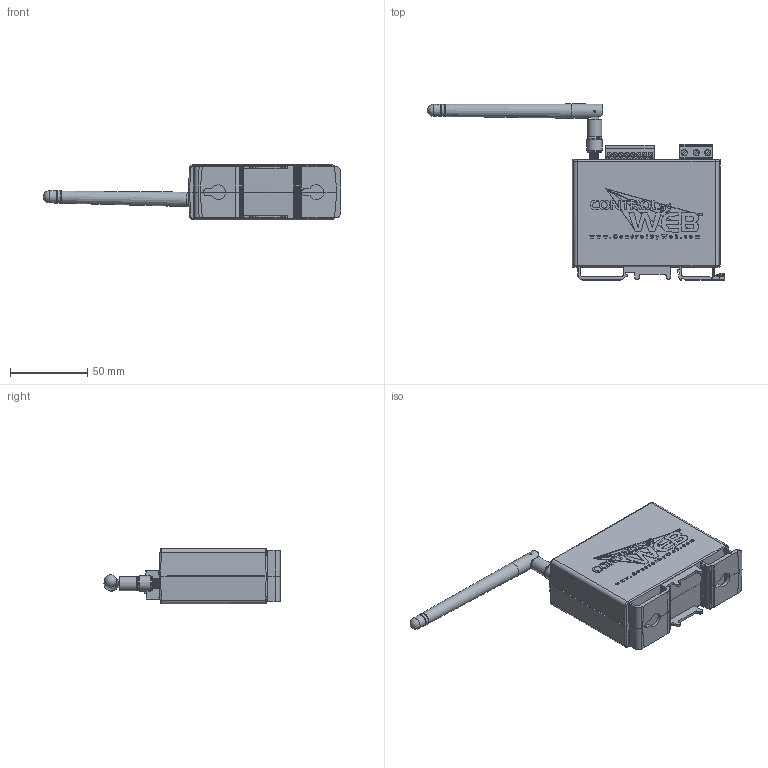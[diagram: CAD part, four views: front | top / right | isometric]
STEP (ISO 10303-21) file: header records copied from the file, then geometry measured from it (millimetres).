
FILE_DESCRIPTION((''),'2;1');
FILE_NAME('\\CBWSRV2\product-design\XW-210I_Wireless_WebRelay\Mechanical\XW-210_3D.stp','2017-02-22T10:03:11',('David Olsen'),(''),'Autodesk Inventor 2013','Autodesk Inventor 2013','');
FILE_SCHEMA(('AUTOMOTIVE_DESIGN { 1 0 10303 214 1 1 1 1 }'));
Length unit declared in the file: inch
Products named in the file (2): Assembly_Complete_XW-210.iam (SubstituteLevelofDetail1); Assembly_Complete_XW-210_Substitute
Assembly tree (1 placements, depth 2):
  Assembly_Complete_XW-210.iam (SubstituteLevelofDetail1)
    Assembly_Complete_XW-210_Substitute
Bounding box: 192.19 x 113.85 x 35.97 mm (x, y, z)
Volume: 249222.4 mm3; surface area: 43386.7 mm2
Topology: 1 solids, 30 shells, 2909 faces, 8023 edges, 5222 vertices
Faces by surface type: plane 2348, cylinder 389, cone 84, torus 53, bspline 16, sphere 11, revolution 8
Full cylindrical faces by diameter (mm): 0.457 x1, 0.609 x1, 0.9 x1, 1.24 x1, 1.27 x1, 1.588 x5, 1.93 x1, 1.981 x1, 2.8 x8, 2.9 x8, 3 x4, 3.175 x6, 3.783 x3, 3.969 x4, 4 x3, 4.62 x1, 5.34 x1, 5.486 x1, 5.639 x1, 7.071 x1, 7.08 x1, 8.735 x1, 9.246 x1, 9.322 x1, 9.423 x2, 9.982 x1
Entity records: 99953 total; most frequent: CARTESIAN_POINT 23351, ORIENTED_EDGE 15734, DIRECTION 14436, EDGE_CURVE 7867, VECTOR 6526, LINE 6526, VERTEX_POINT 5175, AXIS2_PLACEMENT_3D 3951
